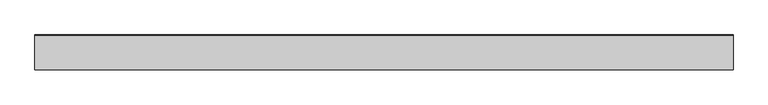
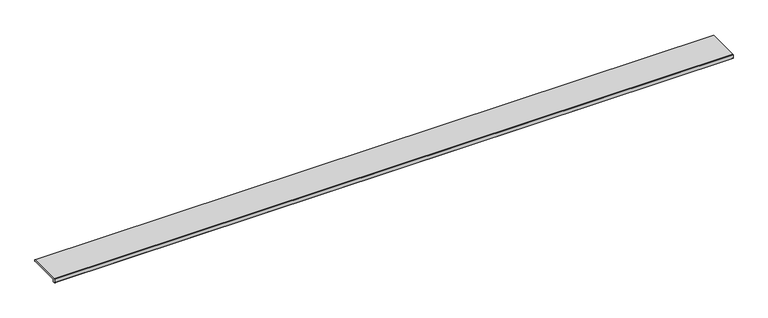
"""IFC4 building model written with IfcOpenShell, lengths in millimetres: proxy geometry, Muestra 6.32m L62 : Muestra 6.32m L62."""

from ifc_helpers import new_model, si_unit, frame, origin, place, context, project, spatial, polyline, circle_curve, source, transform, mapped, element, save
from ifc_brep_helpers import plane_surface, cylinder_surface, revolved_surface, advanced_brep


def generic_models_a9fd2c46(model_context):
    return source(origin(), model_context, "Body", "AdvancedBrep", [
        advanced_brep(
        [(172492.0368915, -2643.1210425, -35.5), (172492.0368915, -2643.1210425, -2.5), (172492.0368915, -2640.6210425, 0.0), (172492.0368915, -2328.6210425, 0.0), (172492.0368915, -2326.1210425, -2.5), (172492.0368915, -2326.1210425, -12.2548713), (172492.0368915, -2328.6210425, -14.7548713), (172492.0368915, -2620.6210425, -14.7964749), (172492.0368915, -2623.1210425, -17.2964749), (172492.0368915, -2623.1210425, -35.5), (172492.0368915, -2625.6210425, -38.0), (172492.0368915, -2640.6210425, -38.0), (178812.0368915, -2643.1210425, -35.5), (178812.0368915, -2640.6210425, -38.0), (178812.0368915, -2625.6210425, -38.0), (178812.0368915, -2623.1210425, -35.5), (178812.0368915, -2623.1210425, -17.2964749), (178812.0368915, -2620.6210425, -14.7964749), (178812.0368915, -2328.6210425, -14.7964749), (178812.0368915, -2326.1210425, -12.2548713), (178812.0368915, -2326.1210425, -2.5), (178812.0368915, -2328.6210425, 0.0), (178812.0368915, -2640.6210425, 0.0), (178812.0368915, -2643.1210425, -2.5)],
        [
            (0, 1),
            (1, 2),
            (2, 3),
            (3, 4),
            (4, 5),
            (5, 6, circle_curve(frame((172492.0368915, -2328.6210425, -12.2548713), z_axis=(-1.0, 0.0, 0.0), x_axis=(0.0, 0.0, -1.0)), 2.5)),
            (6, 7),
            (7, 8, circle_curve(frame((172492.0368915, -2620.6210425, -17.2964749), z_axis=(1.0, 0.0, 0.0), x_axis=(0.0, 0.0, -1.0)), 2.5)),
            (8, 9),
            (9, 10, circle_curve(frame((172492.0368915, -2625.6210425, -35.5), z_axis=(-1.0, 0.0, 0.0), x_axis=(0.0, 0.0, -1.0)), 2.5)),
            (10, 11),
            (11, 0, circle_curve(frame((172492.0368915, -2640.6210425, -35.5), z_axis=(-1.0, 0.0, 0.0), x_axis=(0.0, 0.0, -1.0)), 2.5)),
            (12, 13, circle_curve(frame((178812.0368915, -2640.6210425, -35.5), z_axis=(1.0, 0.0, 0.0), x_axis=(0.0, 0.0, -1.0)), 2.5)),
            (13, 14),
            (14, 15, circle_curve(frame((178812.0368915, -2625.6210425, -35.5), z_axis=(1.0, 0.0, 0.0), x_axis=(0.0, 0.0, -1.0)), 2.5)),
            (15, 16),
            (16, 17, circle_curve(frame((178812.0368915, -2620.6210425, -17.2964749), z_axis=(-1.0, 0.0, 0.0), x_axis=(0.0, 0.0, -1.0)), 2.5)),
            (17, 18),
            (18, 19, circle_curve(frame((178812.0368915, -2328.6210425, -12.2548713), z_axis=(1.0, 0.0, 0.0), x_axis=(0.0, 0.0, -1.0)), 2.5)),
            (19, 20),
            (20, 21),
            (21, 22),
            (22, 23),
            (23, 12),
            (0, 12),
            (23, 1),
            (22, 2),
            (21, 3),
            (4, 20),
            (19, 5),
            (18, 6),
            (17, 7),
            (16, 8),
            (15, 9),
            (14, 10),
            (13, 11),
        ],
        [
            plane_surface(frame((172492.0368915, -2643.1210425, 0.0), z_axis=(-1.0, 0.0, 0.0), x_axis=(0.0, 0.0, 1.0))),
            plane_surface(frame((178812.0368915, -2643.1210425, 0.0), z_axis=(1.0, 0.0, 0.0), x_axis=(0.0, 0.0, 1.0))),
            plane_surface(frame((172492.0368915, -2643.1210425, -35.5), z_axis=(0.0, -1.0, 0.0), x_axis=(1.0, 0.0, 0.0))),
            plane_surface(frame((172492.0368915, -2643.1210425, -2.5), z_axis=(0.0, -0.707106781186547, 0.7071067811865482), x_axis=(1.0, 0.0, 0.0))),
            plane_surface(frame((172492.0368915, -2640.6210425, 0.0), z_axis=(0.0, 0.0, 1.0), x_axis=(1.0, 0.0, 0.0))),
            plane_surface(frame((172492.0368915, -2326.1210425, -2.5), z_axis=(0.0, 1.0, 0.0), x_axis=(1.0, 0.0, 0.0))),
            cylinder_surface(frame((172492.0368915, -2328.6210425, -12.2548713), z_axis=(-1.0, 0.0, 0.0), x_axis=(0.0, 0.0, -1.0)), 2.5),
            plane_surface(frame((172492.0368915, -2328.6210425, -14.7964749), z_axis=(0.0, 0.0, -1.0), x_axis=(1.0, 0.0, 0.0))),
            revolved_surface(polyline([(178812.0368915, -2620.6210425, -19.7964749), (172492.0368915, -2620.6210425, -19.7964749)]), (172492.0368915, -2620.6210425, -17.2964749), (1.0, 0.0, 0.0)),
            plane_surface(frame((172492.0368915, -2623.1210425, -17.2964749), z_axis=(0.0, 1.0, 0.0), x_axis=(1.0, 0.0, 0.0))),
            cylinder_surface(frame((172492.0368915, -2625.6210425, -35.5), z_axis=(-1.0, 0.0, 0.0), x_axis=(0.0, 0.0, -1.0)), 2.5),
            plane_surface(frame((172492.0368915, -2625.6210425, -38.0), z_axis=(0.0, 0.0, -1.0), x_axis=(1.0, 0.0, 0.0))),
            cylinder_surface(frame((172492.0368915, -2640.6210425, -35.5), z_axis=(-1.0, 0.0, 0.0), x_axis=(0.0, 0.0, -1.0)), 2.5),
            plane_surface(frame((172492.0368915, -2328.6210425, 0.0), z_axis=(0.0, 0.707106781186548, 0.707106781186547), x_axis=(1.0, 0.0, 0.0))),
        ],
        [
            (0, [[1, 2, 3, 4, 5, 6, 7, 8, 9, 10, 11, 12]]),
            (1, [[13, 14, 15, 16, 17, 18, 19, 20, 21, 22, 23, 24]]),
            (2, [[-1, 25, -24, 26]]),
            (3, [[-2, -26, -23, 27]]),
            (4, [[-3, -27, -22, 28]]),
            (5, [[-5, 29, -20, 30]]),
            (6, [[-6, -30, -19, 31]]),
            (7, [[-7, -31, -18, 32]]),
            (8, [[-8, -32, -17, 33]]),
            (9, [[-9, -33, -16, 34]]),
            (10, [[-10, -34, -15, 35]]),
            (11, [[-11, -35, -14, 36]]),
            (12, [[-12, -36, -13, -25]]),
            (13, [[-4, -28, -21, -29]]),
        ],
    ),
    ])


if __name__ == "__main__":
    model = new_model("IFC4")
    model_context = context("Model", 3, world=origin())
    ifc_project = project(units=[si_unit("LENGTHUNIT", "METRE", prefix="MILLI")], contexts=[model_context])
    site = spatial("IfcSite", under=ifc_project)
    building = spatial("IfcBuilding", under=site)
    placement = place(None, origin())
    generic_models_shape = generic_models_a9fd2c46(model_context)
    element("IfcBuildingElementProxy", 1, Name="Muestra 6.32m L62 : Muestra 6.32m L62", ObjectType="Muestra 6.32m L62 : Muestra 6.32m L62", at=placement, inside=building, context=model_context, shape_type="MappedRepresentation", body=[
        mapped(generic_models_shape, transform((0.0, 0.0, 0.0), x_axis=(1.0, 0.0, 0.0), y_axis=(0.0, 1.0, 0.0), z_axis=(0.0, 0.0, 1.0))),
    ])
    save(model, "model.ifc")
